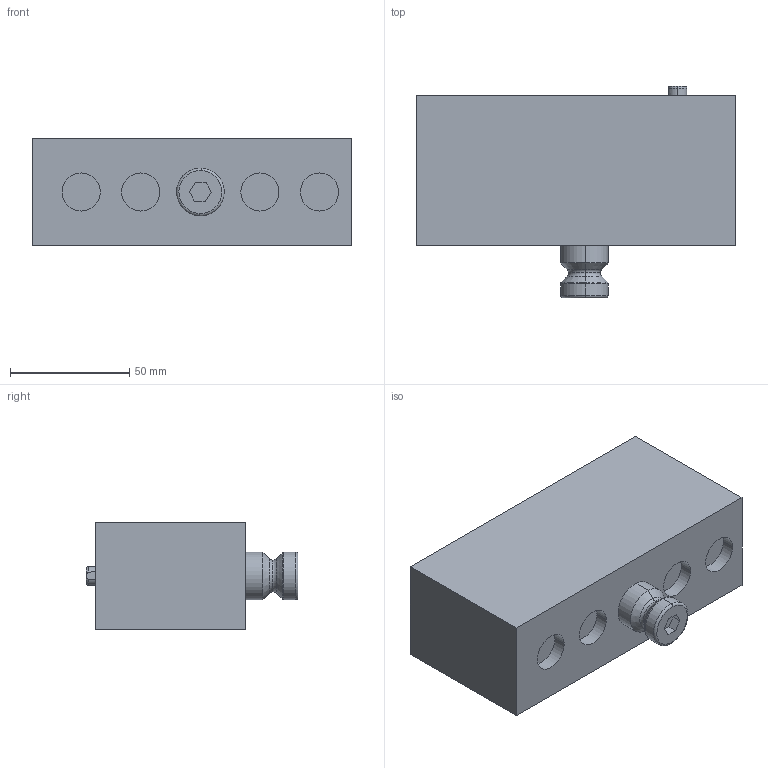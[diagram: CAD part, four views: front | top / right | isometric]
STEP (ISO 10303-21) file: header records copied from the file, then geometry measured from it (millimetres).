
FILE_DESCRIPTION (( 'STEP AP214' ), '1' );
FILE_NAME ('81515.STEP', '2020-10-28T09:02:04', ( '' ), ( '' ), 'SwSTEP 2.0', 'SolidWorks 2019', '' );
FILE_SCHEMA (( 'AUTOMOTIVE_DESIGN' ));
Length unit declared in the file: millimetre
Products named in the file (1): 81515
Bounding box: 134 x 88.9 x 45 mm (x, y, z)
Volume: 373613.3 mm3; surface area: 40517.4 mm2
Topology: 3 solids, 3 shells, 78 faces, 162 edges, 96 vertices
Faces by surface type: cylinder 27, plane 24, cone 17, torus 8, sphere 2
Entity records: 2982 total; most frequent: DIRECTION 392, CARTESIAN_POINT 378, ORIENTED_EDGE 316, AXIS2_PLACEMENT_3D 160, EDGE_CURVE 158, VERTEX_POINT 96, EDGE_LOOP 88, UNCERTAINTY_MEASURE_WITH_UNIT 83
